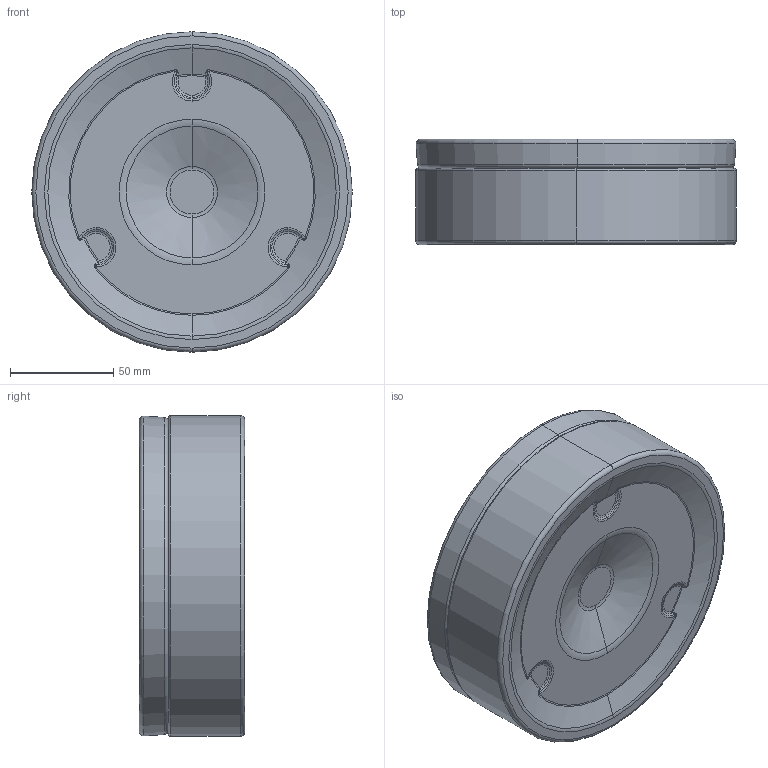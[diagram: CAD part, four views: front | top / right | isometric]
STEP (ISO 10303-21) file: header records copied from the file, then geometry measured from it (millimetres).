
FILE_DESCRIPTION (( 'STEP AP214' ), '1' );
FILE_NAME ('DS4000A__BARBADOS-D15.STEP', '2015-05-12T17:32:56', ( '' ), ( '' ), 'SwSTEP 2.0', 'SolidWorks 2015', '' );
FILE_SCHEMA (( 'AUTOMOTIVE_DESIGN' ));
Length unit declared in the file: millimetre
Products named in the file (3): corpo D15; DS4000A__BARBADOS-D15; coperchio D15
Assembly tree (2 placements, depth 2):
  DS4000A__BARBADOS-D15
    corpo D15
    coperchio D15
Bounding box: 155 x 50.86 x 155 mm (x, y, z)
Volume: 529178.4 mm3; surface area: 105580.3 mm2
Topology: 2 solids, 2 shells, 109 faces, 227 edges, 126 vertices
Faces by surface type: torus 53, cone 22, bspline 12, plane 11, sphere 9, cylinder 2
Entity records: 3437 total; most frequent: CARTESIAN_POINT 977, DIRECTION 585, ORIENTED_EDGE 454, AXIS2_PLACEMENT_3D 282, EDGE_CURVE 227, CIRCLE 180, VERTEX_POINT 126, EDGE_LOOP 115
